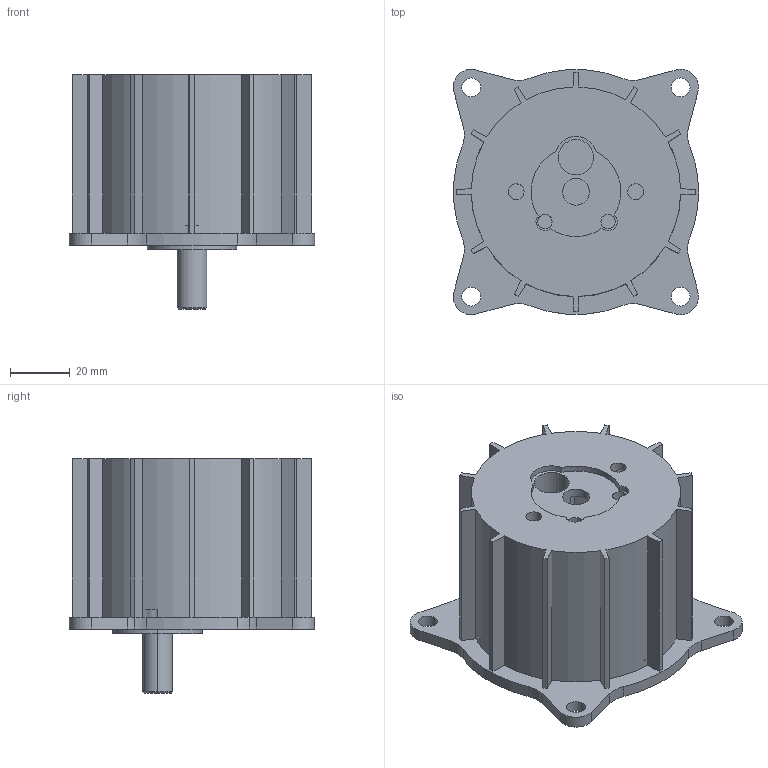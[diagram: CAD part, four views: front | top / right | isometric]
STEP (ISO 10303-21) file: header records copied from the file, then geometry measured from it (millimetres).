
FILE_DESCRIPTION (( 'STEP AP214' ), '1' );
FILE_NAME ('Z89.STEP', '2010-02-17T13:11:27', ( 'hirschmeier' ), ( '' ), 'SwSTEP 2.0', 'SolidWorks 2008', '' );
FILE_SCHEMA (( 'AUTOMOTIVE_DESIGN' ));
Length unit declared in the file: millimetre
Products named in the file (3): Z89; Z89_Deckel_Standard; Z89_Gehäuse_Standard
Assembly tree (2 placements, depth 2):
  Z89
    Z89_Deckel_Standard
    Z89_Gehäuse_Standard
Bounding box: 81.98 x 81.97 x 78.5 mm (x, y, z)
Volume: 90694 mm3; surface area: 56995.3 mm2
Topology: 2 solids, 2 shells, 367 faces, 1000 edges, 647 vertices
Faces by surface type: plane 166, cylinder 143, cone 36, bspline 12, torus 10
Entity records: 12848 total; most frequent: CARTESIAN_POINT 3203, DIRECTION 2041, ORIENTED_EDGE 1988, EDGE_CURVE 994, AXIS2_PLACEMENT_3D 767, VERTEX_POINT 647, VECTOR 507, LINE 507
